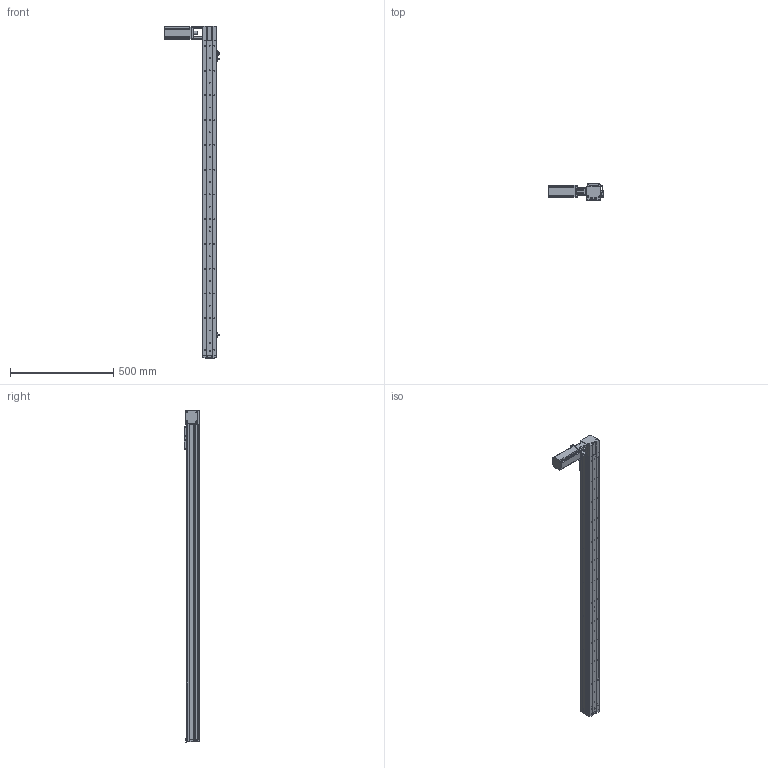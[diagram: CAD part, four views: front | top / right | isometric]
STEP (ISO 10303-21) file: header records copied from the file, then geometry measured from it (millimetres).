
FILE_DESCRIPTION (( 'STEP AP214' ), '1' );
FILE_NAME ('KSD68BS-S1350-MLT-CR.STEP', '2019-11-08T05:34:43', ( '微软用户' ), ( '微软中国' ), 'SwSTEP 2.0', 'SolidWorks 2014', '' );
FILE_SCHEMA (( 'AUTOMOTIVE_DESIGN' ));
Length unit declared in the file: millimetre
Products named in the file (13): 台达ECMA－C20604AS伺服电机（400W); KSD68BS 1350行程底板全封闭; KSD68BS-S1350-MLT-CR; 100遵鎮湛假蚾啣1; KSD68BS 1350行程盖板全封闭; 68遵裔啣揤啣1; 68宽单导轨全封闭丝杆传动安装板1防护罩; KSD68BS 1350行程侧板全封闭; 68宽单导轨全封闭同步带端板; 68单导轨全封闭同步带电机座右; 68单导轨全封闭同步带安装板; 感应片68宽全封闭; U倰嫖萇EEㄜSX672
Assembly tree (16 placements, depth 2):
  KSD68BS-S1350-MLT-CR
    KSD68BS 1350行程底板全封闭
    台达ECMA－C20604AS伺服电机（400W)
    U倰嫖萇EEㄜSX672  x3
    感应片68宽全封闭
    68单导轨全封闭同步带安装板
    68单导轨全封闭同步带电机座右
    68宽单导轨全封闭同步带端板
    KSD68BS 1350行程侧板全封闭  x2
    68宽单导轨全封闭丝杆传动安装板1防护罩
    68遵裔啣揤啣1  x2
    KSD68BS 1350行程盖板全封闭
    100遵鎮湛假蚾啣1
Bounding box: 266.4 x 77 x 1608.1 mm (x, y, z)
Volume: 2957231.8 mm3; surface area: 1156447.4 mm2
Topology: 17 solids, 17 shells, 1516 faces, 4352 edges, 2771 vertices
Faces by surface type: cylinder 732, plane 604, cone 180
Entity records: 48941 total; most frequent: CARTESIAN_POINT 8423, DIRECTION 7240, ORIENTED_EDGE 6924, EDGE_CURVE 3462, AXIS2_PLACEMENT_3D 2634, VERTEX_POINT 2269, LINE 1972, VECTOR 1972
